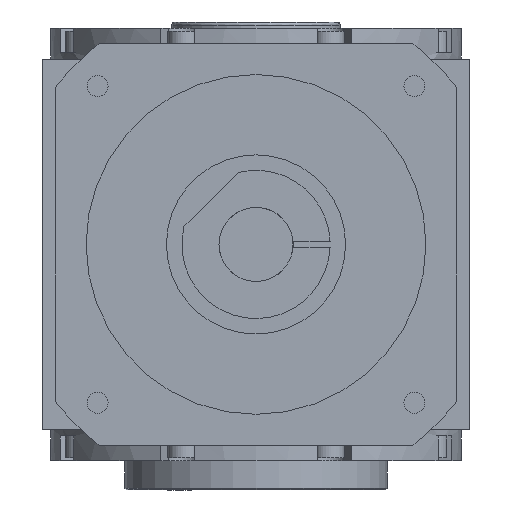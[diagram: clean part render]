
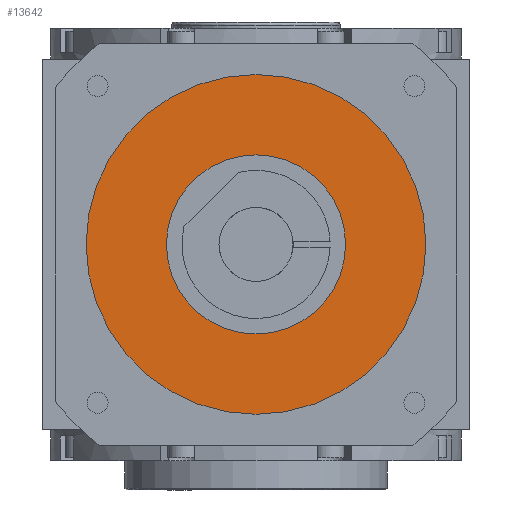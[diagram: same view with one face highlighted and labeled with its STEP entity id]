
A CAD part, front view. The second image highlights one B-rep face of the part: STEP entity #13642.
In plain terms, the highlighted planar face has unit normal (0, -1, 0) as drawn and (0, 0, -1) by its records, which use the part's own axes.
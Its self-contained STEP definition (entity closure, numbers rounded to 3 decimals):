
#560 = CARTESIAN_POINT ( 'NONE',  ( -29., 0., -151. ) ) ;
#650 = ORIENTED_EDGE ( 'NONE', *, *, #12808, .T. ) ;
#1061 = AXIS2_PLACEMENT_3D ( 'NONE', #6067, #17119, #4703 ) ;
#1537 = CARTESIAN_POINT ( 'NONE',  ( 29., 0., -151. ) ) ;
#1720 = DIRECTION ( 'NONE',  ( 0., 0., -1. ) ) ;
#3785 = EDGE_LOOP ( 'NONE', ( #7775, #9129 ) ) ;
#3809 = PLANE ( 'NONE',  #4213 ) ;
#4086 = CARTESIAN_POINT ( 'NONE',  ( 0., 0., -151. ) ) ;
#4213 = AXIS2_PLACEMENT_3D ( 'NONE', #17057, #12981, #14778 ) ;
#4614 = DIRECTION ( 'NONE',  ( -1., 0., 0. ) ) ;
#4703 = DIRECTION ( 'NONE',  ( -1., 0., 0. ) ) ;
#5161 = FACE_BOUND ( 'NONE', #3785, .T. ) ;
#5681 = AXIS2_PLACEMENT_3D ( 'NONE', #15672, #1720, #4614 ) ;
#6067 = CARTESIAN_POINT ( 'NONE',  ( 0., 0., -151. ) ) ;
#6505 = DIRECTION ( 'NONE',  ( 0., 0., -1. ) ) ;
#7597 = CARTESIAN_POINT ( 'NONE',  ( 0., 0., -151. ) ) ;
#7680 = DIRECTION ( 'NONE',  ( -1., 0., 0. ) ) ;
#7718 = CIRCLE ( 'NONE', #5681, 55. ) ;
#7775 = ORIENTED_EDGE ( 'NONE', *, *, #8704, .T. ) ;
#7881 = VERTEX_POINT ( 'NONE', #1537 ) ;
#8439 = DIRECTION ( 'NONE',  ( -1., 0., 0. ) ) ;
#8586 = CIRCLE ( 'NONE', #1061, 29. ) ;
#8704 = EDGE_CURVE ( 'NONE', #15355, #7881, #11171, .T. ) ;
#8867 = EDGE_CURVE ( 'NONE', #17522, #9218, #7718, .T. ) ;
#8889 = EDGE_CURVE ( 'NONE', #7881, #15355, #8586, .T. ) ;
#9129 = ORIENTED_EDGE ( 'NONE', *, *, #8889, .T. ) ;
#9218 = VERTEX_POINT ( 'NONE', #12187 ) ;
#11171 = CIRCLE ( 'NONE', #12899, 29. ) ;
#11330 = DIRECTION ( 'NONE',  ( 0., 0., 1. ) ) ;
#12187 = CARTESIAN_POINT ( 'NONE',  ( -55., 0., -151. ) ) ;
#12562 = ORIENTED_EDGE ( 'NONE', *, *, #8867, .T. ) ;
#12589 = AXIS2_PLACEMENT_3D ( 'NONE', #7597, #6505, #7680 ) ;
#12808 = EDGE_CURVE ( 'NONE', #9218, #17522, #17510, .T. ) ;
#12899 = AXIS2_PLACEMENT_3D ( 'NONE', #4086, #11330, #8439 ) ;
#12981 = DIRECTION ( 'NONE',  ( 0., 0., -1. ) ) ;
#13642 = ADVANCED_FACE ( 'NONE', ( #15611, #5161 ), #3809, .T. ) ;
#14241 = CARTESIAN_POINT ( 'NONE',  ( 55., 0., -151. ) ) ;
#14778 = DIRECTION ( 'NONE',  ( -1., 0., 0. ) ) ;
#15355 = VERTEX_POINT ( 'NONE', #560 ) ;
#15611 = FACE_OUTER_BOUND ( 'NONE', #17108, .T. ) ;
#15672 = CARTESIAN_POINT ( 'NONE',  ( 0., 0., -151. ) ) ;
#17057 = CARTESIAN_POINT ( 'NONE',  ( 0., 0., -151. ) ) ;
#17108 = EDGE_LOOP ( 'NONE', ( #650, #12562 ) ) ;
#17119 = DIRECTION ( 'NONE',  ( 0., 0., 1. ) ) ;
#17510 = CIRCLE ( 'NONE', #12589, 55. ) ;
#17522 = VERTEX_POINT ( 'NONE', #14241 ) ;
